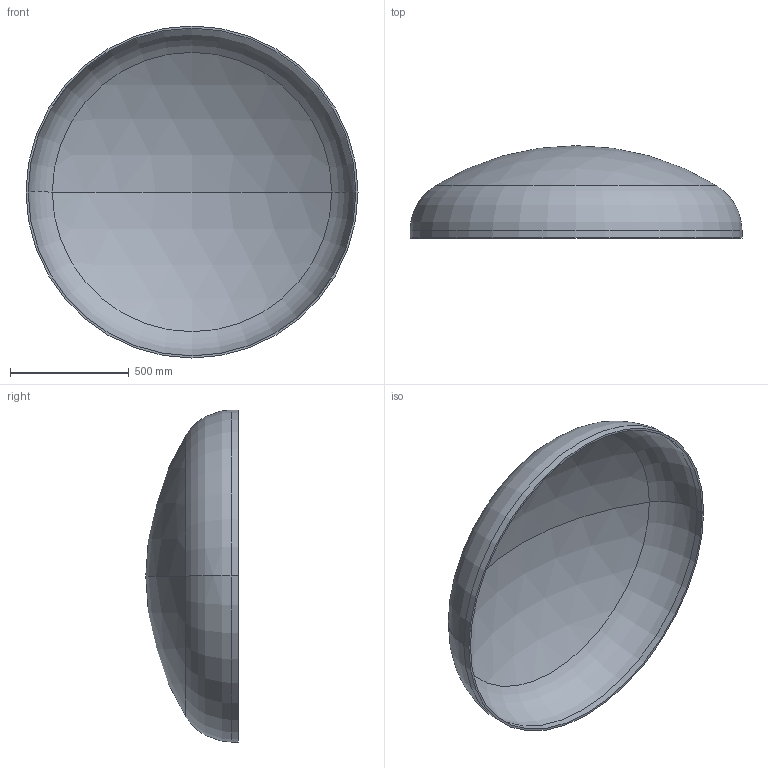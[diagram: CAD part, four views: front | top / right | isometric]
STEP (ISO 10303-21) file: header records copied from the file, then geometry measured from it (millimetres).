
FILE_DESCRIPTION (( 'STEP AP203' ), '1' );
FILE_NAME ('DIN 28013 Korbbogenform_-_Boden DIN 28013 - 1400 x 30 - I - s=9.step', '2016-07-01T10:07:06', ( '' ), ( '' ), 'SwSTEP 2.0', 'SolidWorks 2013', '' );
FILE_SCHEMA (( 'CONFIG_CONTROL_DESIGN' ));
Length unit declared in the file: millimetre
Products named in the file (1): DIN 28013 Korbbogenform_-_Boden DIN 28013 - 1400 x 30 - I - s=9
Bounding box: 1400 x 389.29 x 1400 mm (x, y, z)
Volume: 20195673.7 mm3; surface area: 4527425 mm2
Topology: 1 solids, 1 shells, 13 faces, 24 edges, 14 vertices
Faces by surface type: torus 4, cylinder 4, sphere 4, plane 1
Entity records: 407 total; most frequent: DIRECTION 72, CARTESIAN_POINT 52, ORIENTED_EDGE 48, AXIS2_PLACEMENT_3D 34, EDGE_CURVE 24, CIRCLE 20, EDGE_LOOP 14, VERTEX_POINT 14
